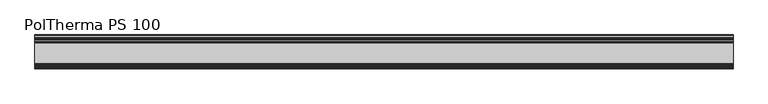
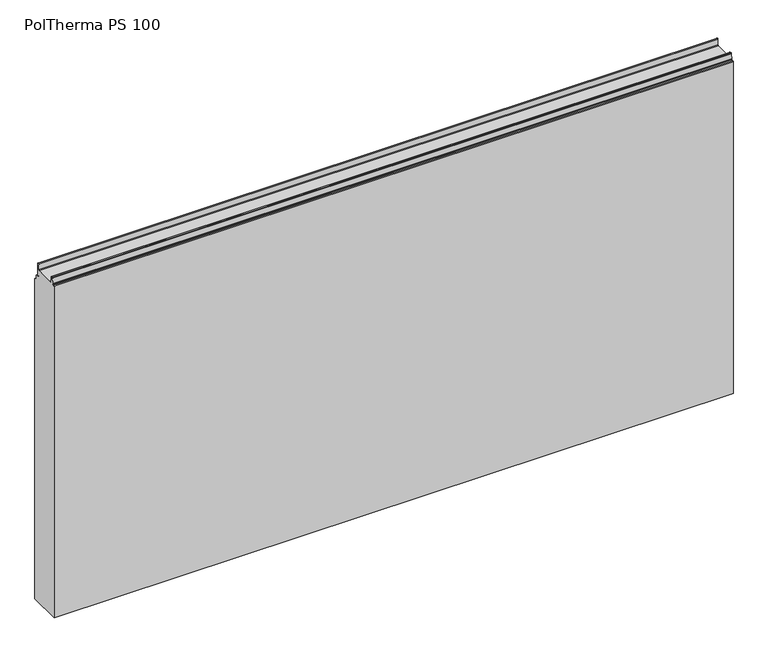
"""IFC4 building model written with IfcOpenShell, lengths in millimetres: plate geometry, Europanels_Poltherma PS_Hz : PolTherma PS 100."""

from ifc_helpers import new_model, si_unit, frame, origin, place, context, project, spatial, polyline, circle_curve, source, transform, mapped, element, save
from ifc_brep_helpers import plane_surface, cylinder_surface, revolved_surface, advanced_brep


def poltherma_ps_100_e579bfd0(model_context):
    return source(origin(), model_context, "Body", "AdvancedBrep", [
        advanced_brep(
        [(1025.0, 50.0, 0.0), (1025.0, 50.0, 1022.2385671), (1025.0, 48.4255288, 1024.3101044), (1025.0, 43.7941649, 1025.5968219), (1025.0, 42.0, 1027.9574109), (1025.0, 42.0, 1038.5271022), (1025.0, 39.65, 1040.8771022), (1025.0, 36.65, 1040.8771022), (1025.0, 34.0, 1043.5271022), (1025.0, 34.0, 1082.1367317), (1025.0, 31.7657157, 1084.2363881), (1025.0, 29.6717693, 1082.2998467), (1025.0, 28.9864093, 1065.781124), (1025.0, 26.3385145, 1063.2367317), (1025.0, -33.7011224, 1063.2367317), (1025.0, -34.4432694, 1079.8261148), (1025.0, -36.4412711, 1081.7367317), (1025.0, -39.1905122, 1081.7367317), (1025.0, -41.1863232, 1079.8661089), (1025.0, -42.2402866, 1063.6073545), (1025.0, -44.2360976, 1061.7367317), (1025.0, -47.9973085, 1061.7367317), (1025.0, -49.9973085, 1059.7367317), (1025.0, -50.0, 0.0), (-1025.0, 50.0, 0.0), (-1025.0, -50.0, 0.0), (-1025.0, -50.0, 1059.7367317), (-1025.0, -47.9973085, 1061.7367317), (-1025.0, -44.2360976, 1061.7367317), (-1025.0, -42.2402866, 1063.6073545), (-1025.0, -41.1863232, 1079.8661089), (-1025.0, -39.1905122, 1081.7367317), (-1025.0, -36.4412711, 1081.7367317), (-1025.0, -34.4432694, 1079.8261148), (-1025.0, -33.7011224, 1063.2367317), (-1025.0, 26.3385145, 1063.2367317), (-1025.0, 28.9864093, 1065.781124), (-1025.0, 29.6452624, 1082.300507), (-1025.0, 31.7657157, 1084.2363881), (-1025.0, 33.9748677, 1082.1374188), (-1025.0, 34.0, 1043.5271022), (-1025.0, 36.65, 1040.8771022), (-1025.0, 39.65, 1040.8771022), (-1025.0, 42.0, 1038.5271022), (-1025.0, 42.0, 1027.9574109), (-1025.0, 43.7941649, 1025.5968219), (-1025.0, 48.4255288, 1024.3101044), (-1025.0, 50.0, 1022.2385671)],
        [
            (0, 1),
            (1, 2, circle_curve(frame((1025.0, 47.85, 1022.2385671), z_axis=(1.0, 0.0, 0.0), x_axis=(0.0, 1.0, 0.0)), 2.15)),
            (2, 3),
            (3, 4, circle_curve(frame((1025.0, 44.45, 1027.9574109), z_axis=(-1.0, 0.0, 0.0), x_axis=(0.0, 1.0, 0.0)), 2.45)),
            (4, 5),
            (5, 6, circle_curve(frame((1025.0, 39.65, 1038.5271022), z_axis=(1.0, 0.0, 0.0), x_axis=(0.0, 1.0, 0.0)), 2.35)),
            (6, 7),
            (7, 8, circle_curve(frame((1025.0, 36.65, 1043.5271022), z_axis=(-1.0, 0.0, 0.0), x_axis=(0.0, 1.0, 0.0)), 2.65)),
            (8, 9),
            (9, 10, circle_curve(frame((1025.0, 31.8731507, 1082.1374188), z_axis=(1.0, 0.0, 0.0), x_axis=(0.0, 1.0, 0.0)), 2.101717)),
            (10, 11, circle_curve(frame((1025.0, 31.7657157, 1082.1360446), z_axis=(1.0, 0.0, 0.0), x_axis=(0.0, 1.0, 0.0)), 2.1003435)),
            (11, 12),
            (12, 13, circle_curve(frame((1025.0, 26.3385145, 1065.8867317), z_axis=(-1.0, 0.0, 0.0), x_axis=(0.0, 1.0, 0.0)), 2.65)),
            (13, 14),
            (14, 15),
            (15, 16, circle_curve(frame((1025.0, -36.4412711, 1079.7367317), z_axis=(1.0, 0.0, 0.0), x_axis=(0.0, 1.0, 0.0)), 2.0)),
            (16, 17),
            (17, 18, circle_curve(frame((1025.0, -39.1905122, 1079.7367317), z_axis=(1.0, 0.0, 0.0), x_axis=(0.0, 1.0, 0.0)), 2.0)),
            (18, 19),
            (19, 20, circle_curve(frame((1025.0, -44.2360976, 1063.7367317), z_axis=(-1.0, 0.0, 0.0), x_axis=(0.0, 1.0, 0.0)), 2.0)),
            (20, 21),
            (21, 22, circle_curve(frame((1025.0, -47.9973085, 1059.7367317), z_axis=(1.0, 0.0, 0.0), x_axis=(0.0, 1.0, 0.0)), 2.0)),
            (22, 23),
            (23, 0),
            (24, 25),
            (25, 26),
            (26, 27, circle_curve(frame((-1025.0, -47.9973085, 1059.7367317), z_axis=(-1.0, 0.0, 0.0), x_axis=(0.0, 1.0, 0.0)), 2.0)),
            (27, 28),
            (28, 29, circle_curve(frame((-1025.0, -44.2360976, 1063.7367317), z_axis=(1.0, 0.0, 0.0), x_axis=(0.0, 1.0, 0.0)), 2.0)),
            (29, 30),
            (30, 31, circle_curve(frame((-1025.0, -39.1905122, 1079.7367317), z_axis=(-1.0, 0.0, 0.0), x_axis=(0.0, 1.0, 0.0)), 2.0)),
            (31, 32),
            (32, 33, circle_curve(frame((-1025.0, -36.4412711, 1079.7367317), z_axis=(-1.0, 0.0, 0.0), x_axis=(0.0, 1.0, 0.0)), 2.0)),
            (33, 34),
            (34, 35),
            (35, 36, circle_curve(frame((-1025.0, 26.3385145, 1065.8867317), z_axis=(1.0, 0.0, 0.0), x_axis=(0.0, 1.0, 0.0)), 2.65)),
            (36, 37),
            (37, 38, circle_curve(frame((-1025.0, 31.7657157, 1082.1360446), z_axis=(-1.0, 0.0, 0.0), x_axis=(0.0, 1.0, 0.0)), 2.1003435)),
            (38, 39, circle_curve(frame((-1025.0, 31.8731507, 1082.1374188), z_axis=(-1.0, 0.0, 0.0), x_axis=(0.0, 1.0, 0.0)), 2.101717)),
            (39, 40),
            (40, 41, circle_curve(frame((-1025.0, 36.65, 1043.5271022), z_axis=(1.0, 0.0, 0.0), x_axis=(0.0, 1.0, 0.0)), 2.65)),
            (41, 42),
            (42, 43, circle_curve(frame((-1025.0, 39.65, 1038.5271022), z_axis=(-1.0, 0.0, 0.0), x_axis=(0.0, 1.0, 0.0)), 2.35)),
            (43, 44),
            (44, 45, circle_curve(frame((-1025.0, 44.45, 1027.9574109), z_axis=(1.0, 0.0, 0.0), x_axis=(0.0, 1.0, 0.0)), 2.45)),
            (45, 46),
            (46, 47, circle_curve(frame((-1025.0, 47.85, 1022.2385671), z_axis=(-1.0, 0.0, 0.0), x_axis=(0.0, 1.0, 0.0)), 2.15)),
            (47, 24),
            (0, 24),
            (47, 1),
            (46, 2),
            (45, 3),
            (44, 4),
            (43, 5),
            (42, 6),
            (41, 7),
            (40, 8),
            (39, 9),
            (38, 10),
            (37, 11),
            (36, 12),
            (35, 13),
            (34, 14),
            (33, 15),
            (32, 16),
            (31, 17),
            (30, 18),
            (29, 19),
            (28, 20),
            (27, 21),
            (26, 22),
            (25, 23),
        ],
        [
            plane_surface(frame((1025.0, 50.0, 1022.2385671), z_axis=(1.0, 0.0, 0.0), x_axis=(0.0, 0.0, 1.0))),
            plane_surface(frame((-1025.0, 50.0, 1022.2385671), z_axis=(-1.0, 0.0, 0.0), x_axis=(0.0, 0.0, -1.0))),
            plane_surface(frame((1025.0, 50.0, 0.0), z_axis=(0.0, 1.0, 0.0), x_axis=(-1.0, 0.0, 0.0))),
            cylinder_surface(frame((-1025.0, 47.85, 1022.2385671), z_axis=(1.0, 0.0, 0.0), x_axis=(0.0, 1.0, 0.0)), 2.15),
            plane_surface(frame((1025.0, 48.4255288, 1024.3101044), z_axis=(0.0, 0.26768780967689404, 0.963505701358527), x_axis=(-1.0, 0.0, 0.0))),
            revolved_surface(polyline([(-1025.0, 46.900000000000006, 1027.9574109), (1025.0, 46.900000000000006, 1027.9574109)]), (-1025.0, 44.45, 1027.9574109), (-1.0, 0.0, 0.0)),
            plane_surface(frame((1025.0, 42.0, 1027.9574109), z_axis=(0.0, 1.0, 0.0), x_axis=(-1.0, 0.0, 0.0))),
            cylinder_surface(frame((-1025.0, 39.65, 1038.5271022), z_axis=(1.0, 0.0, 0.0), x_axis=(0.0, 1.0, 0.0)), 2.35),
            plane_surface(frame((1025.0, 39.65, 1040.8771022), z_axis=(0.0, 0.0, 1.0), x_axis=(-1.0, 0.0, 0.0))),
            revolved_surface(polyline([(-1025.0, 39.3, 1043.5271022), (1025.0, 39.3, 1043.5271022)]), (-1025.0, 36.65, 1043.5271022), (-1.0, 0.0, 0.0)),
            plane_surface(frame((1025.0, 34.0, 1043.5271022), z_axis=(0.0, 1.0, 0.0), x_axis=(-1.0, 0.0, 0.0))),
            cylinder_surface(frame((-1025.0, 31.8731507, 1082.1374188), z_axis=(1.0, 0.0, 0.0), x_axis=(0.0, 1.0, 0.0)), 2.101717),
            cylinder_surface(frame((-1025.0, 31.7657157, 1082.1360446), z_axis=(1.0, 0.0, 0.0), x_axis=(0.0, 1.0, 0.0)), 2.1003435),
            plane_surface(frame((1025.0, 29.6452624, 1082.300507), z_axis=(0.0, -0.9992055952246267, 0.039851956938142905), x_axis=(-1.0, 0.0, 0.0))),
            revolved_surface(polyline([(-1025.0, 28.988514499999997, 1065.8867317), (1025.0, 28.988514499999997, 1065.8867317)]), (-1025.0, 26.3385145, 1065.8867317), (-1.0, 0.0, 0.0)),
            plane_surface(frame((1025.0, 26.3385145, 1063.2367317), z_axis=(0.0, 0.0, 1.0), x_axis=(-1.0, 0.0, 0.0))),
            plane_surface(frame((1025.0, -33.7011224, 1063.2367317), z_axis=(0.0, 0.9990008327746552, 0.04469156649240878), x_axis=(-1.0, 0.0, 0.0))),
            cylinder_surface(frame((-1025.0, -36.4412711, 1079.7367317), z_axis=(1.0, 0.0, 0.0), x_axis=(0.0, 1.0, 0.0)), 2.0),
            plane_surface(frame((1025.0, -36.4412711, 1081.7367317), z_axis=(0.0, 0.0, 1.0), x_axis=(-1.0, 0.0, 0.0))),
            cylinder_surface(frame((-1025.0, -39.1905122, 1079.7367317), z_axis=(1.0, 0.0, 0.0), x_axis=(0.0, 1.0, 0.0)), 2.0),
            plane_surface(frame((1025.0, -41.1863232, 1079.8661089), z_axis=(0.0, -0.9979054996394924, 0.06468859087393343), x_axis=(-1.0, 0.0, 0.0))),
            revolved_surface(polyline([(-1025.0, -42.2360976, 1063.7367317), (1025.0, -42.2360976, 1063.7367317)]), (-1025.0, -44.2360976, 1063.7367317), (-1.0, 0.0, 0.0)),
            plane_surface(frame((1025.0, -44.2360976, 1061.7367317), z_axis=(0.0, 0.0, 1.0), x_axis=(-1.0, 0.0, 0.0))),
            cylinder_surface(frame((-1025.0, -47.9973085, 1059.7367317), z_axis=(1.0, 0.0, 0.0), x_axis=(0.0, 1.0, 0.0)), 2.0),
            plane_surface(frame((1025.0, -50.0, 1059.7367317), z_axis=(0.0, -1.0, 0.0), x_axis=(-1.0, 0.0, 0.0))),
            plane_surface(frame((1025.0, -50.0, 0.0), z_axis=(0.0, 0.0, -1.0), x_axis=(-1.0, 0.0, 0.0))),
        ],
        [
            (0, [[1, 2, 3, 4, 5, 6, 7, 8, 9, 10, 11, 12, 13, 14, 15, 16, 17, 18, 19, 20, 21, 22, 23, 24]]),
            (1, [[25, 26, 27, 28, 29, 30, 31, 32, 33, 34, 35, 36, 37, 38, 39, 40, 41, 42, 43, 44, 45, 46, 47, 48]]),
            (2, [[-1, 49, -48, 50]]),
            (3, [[-2, -50, -47, 51]]),
            (4, [[-3, -51, -46, 52]]),
            (5, [[-4, -52, -45, 53]]),
            (6, [[-5, -53, -44, 54]]),
            (7, [[-6, -54, -43, 55]]),
            (8, [[-7, -55, -42, 56]]),
            (9, [[-8, -56, -41, 57]]),
            (10, [[-9, -57, -40, 58]]),
            (11, [[-10, -58, -39, 59]]),
            (12, [[-11, -59, -38, 60]]),
            (13, [[-12, -60, -37, 61]]),
            (14, [[-13, -61, -36, 62]]),
            (15, [[-14, -62, -35, 63]]),
            (16, [[-15, -63, -34, 64]]),
            (17, [[-16, -64, -33, 65]]),
            (18, [[-17, -65, -32, 66]]),
            (19, [[-18, -66, -31, 67]]),
            (20, [[-19, -67, -30, 68]]),
            (21, [[-20, -68, -29, 69]]),
            (22, [[-21, -69, -28, 70]]),
            (23, [[-22, -70, -27, 71]]),
            (24, [[-23, -71, -26, 72]]),
            (25, [[-24, -72, -25, -49]]),
        ],
    ),
    ])


if __name__ == "__main__":
    model = new_model("IFC4")
    model_context = context("Model", 3, world=origin())
    ifc_project = project(units=[si_unit("LENGTHUNIT", "METRE", prefix="MILLI")], contexts=[model_context])
    site = spatial("IfcSite", under=ifc_project)
    building = spatial("IfcBuilding", under=site)
    placement = place(None, origin())
    poltherma_ps_100_shape = poltherma_ps_100_e579bfd0(model_context)
    element("IfcPlate", 1, ObjectType="Europanels_Poltherma PS_Hz : PolTherma PS 100", at=placement, inside=building, context=model_context, shape_type="MappedRepresentation", body=[
        mapped(poltherma_ps_100_shape, transform((0.0, 0.0, 0.0), x_axis=(1.0, 0.0, 0.0), y_axis=(0.0, 1.0, 0.0), z_axis=(0.0, 0.0, 1.0))),
    ])
    save(model, "model.ifc")
